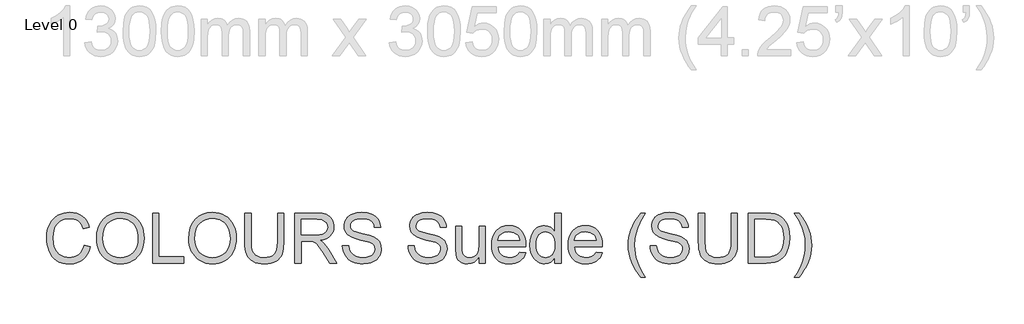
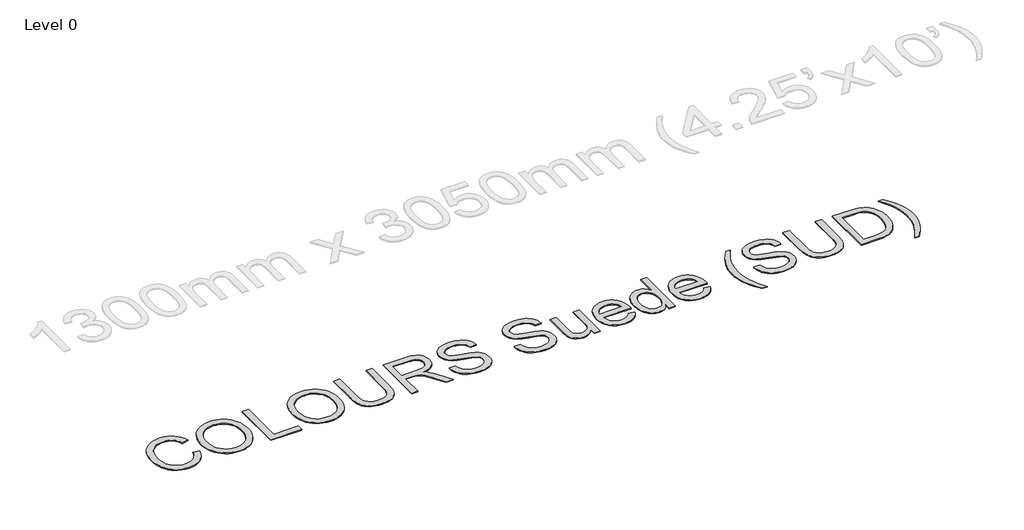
# One storey, part 12 of 37: 1 proxy.
"""IFC4 building model written with IfcOpenShell, lengths in millimetres."""

from ifc_helpers import new_model, si_unit, origin, origin_with_axes, place, context, project, spatial, polyline, outline, extrude, element, save

model = new_model("IFC4")

# Units and contexts
model_context = context("Model", 3, world=origin())
ifc_project = project(units=[si_unit("LENGTHUNIT", "METRE", prefix="MILLI")], contexts=[model_context])

# Site, building, storey
site = spatial("IfcSite", under=ifc_project)
building = spatial("IfcBuilding", under=site)
storey = spatial("IfcBuildingStorey", under=building, Name="Level 0", Elevation=0.0)

# Proxy
placement = place(None, origin())
element("IfcBuildingElementProxy", 1, Name="600mm Arial", ObjectType="600mm Arial", at=placement, inside=storey, context=model_context, shape_type="SweptSolid", body=[
    extrude(outline(polyline([(-10453.6631268, -2025.6175733), (-10378.3208942, -2045.0417427), (-10393.229312, -2091.8961133), (-10413.0857427, -2132.8367808), (-10437.8901863, -2167.8637453), (-10467.6426426, -2196.9770067), (-10501.6717272, -2219.8638653), (-10539.3060553, -2236.2116215), (-10580.5456269, -2246.0202752), (-10625.3904421, -2249.2898264), (-10671.3343048, -2246.81582), (-10712.7808101, -2239.3938007), (-10749.729958, -2227.0237686), (-10782.1817485, -2209.7057237), (-10810.5822385, -2187.6971834), (-10835.377485, -2161.255665), (-10856.5674879, -2130.3811685), (-10874.1522473, -2095.073694), (-10887.9616177, -2056.8599518), (-10897.8254537, -2017.266652), (-10903.7437553, -1976.2937948), (-10905.7165225, -1933.9413801), (-10903.4862379, -1888.4987567), (-10896.7953841, -1846.0543715), (-10885.6439611, -1806.6082246), (-10870.0319689, -1770.1603159), (-10850.3088955, -1737.3130522), (-10826.8242286, -1708.6688404), (-10799.5779683, -1684.2276803), (-10768.5701147, -1663.9895721), (-10734.8537298, -1648.1200625), (-10699.481876, -1636.7846985), (-10662.4545532, -1629.9834801), (-10623.7717614, -1627.7164074), (-10580.6789842, -1630.6502663), (-10541.1638594, -1639.451843), (-10505.2263869, -1654.1211376), (-10472.8665669, -1674.6581499), (-10444.6178282, -1700.5202542), (-10421.0135997, -1731.1648244), (-10402.0538814, -1766.5918605), (-10387.7386733, -1806.8013626), (-10463.0809059, -1824.754004), (-10474.9451002, -1795.1257078), (-10489.2005275, -1769.810828), (-10505.8471878, -1748.8093646), (-10524.8850811, -1732.1213176), (-10546.4245719, -1719.4063961), (-10570.5760249, -1710.3243094), (-10597.33944, -1704.8750573), (-10626.7148173, -1703.05864), (-10660.5139756, -1705.0727939), (-10691.4252603, -1711.1152557), (-10719.4486713, -1721.1860253), (-10744.5842086, -1735.2851027), (-10766.514574, -1752.7778916), (-10784.9224694, -1773.0297954), (-10799.8078946, -1796.0408142), (-10811.1708497, -1821.810948), (-10825.5734298, -1876.9564591), (-10830.3742899, -1933.7942273), (-10824.690513, -2003.3975008), (-10817.585792, -2034.6674704), (-10807.6391826, -2063.5829952), (-10794.6897363, -2089.5692597), (-10778.5765049, -2112.0514481), (-10759.2994884, -2131.0295605), (-10736.8586867, -2146.503597), (-10712.3439502, -2158.5103456), (-10686.8451294, -2167.0865946), (-10660.3622243, -2172.232344), (-10632.8952348, -2173.9475938), (-10600.1399417, -2171.6115431), (-10570.0058078, -2164.6033911), (-10542.4928331, -2152.9231378), (-10517.6010176, -2136.5707831), (-10495.9189725, -2115.6199035), (-10478.035309, -2090.1440753), (-10463.9500271, -2060.1432986), (-10453.6631268, -2025.6175733)])), origin_with_axes(), (0.0, 0.0, 1.0), 10.0),
    extrude(outline(polyline([(-10302.9786616, -1946.449368), (-10297.9570723, -1875.7516456), (-10282.8923046, -1813.1657211), (-10257.7843585, -1758.6915947), (-10241.4641935, -1734.4964557), (-10222.6332338, -1712.3292662), (-10179.5450551, -1675.3111405), (-10130.6259468, -1648.8696221), (-10075.8759089, -1633.004711), (-10015.2949413, -1627.7164074), (-9974.7451484, -1630.1996108), (-9936.2371006, -1637.6492212), (-9899.7707978, -1650.0652386), (-9865.3462401, -1667.4476628), (-9833.9291177, -1689.2722622), (-9806.4851209, -1715.0148048), (-9783.0142496, -1744.6752907), (-9763.5165038, -1778.2537198), (-9748.1942187, -1814.986737), (-9737.2497294, -1854.1109872), (-9730.6830358, -1895.6264703), (-9728.4941379, -1939.5331865), (-9730.7979989, -1984.0193167), (-9737.7095819, -2026.0958199), (-9749.2288869, -2065.7626961), (-9765.3559138, -2103.0199451), (-9785.7089852, -2136.8834828), (-9809.9064234, -2166.3692247), (-9837.9482285, -2191.4771709), (-9869.8344005, -2212.2073213), (-9904.3095419, -2228.4309173), (-9940.1182556, -2240.0192001), (-9977.2605416, -2246.9721698), (-10015.7363997, -2249.2898264), (-10056.9943655, -2246.728448), (-10096.0082511, -2239.0443128), (-10132.7780565, -2226.2374209), (-10167.3037818, -2208.3077721), (-10198.6841159, -2185.9497439), (-10226.0177482, -2159.8577134), (-10249.3046785, -2130.0316806), (-10268.5449068, -2096.4716456), (-10283.6096745, -2060.5249762), (-10294.3702229, -2023.5390401), (-10300.8265519, -1985.5138373), (-10302.9786616, -1946.449368)]), holes=[polyline([(-10227.636429, -1947.185132), (-10223.870237, -1997.1343099), (-10212.5716613, -2041.4732873), (-10193.7407016, -2080.2020644), (-10167.3773582, -2113.320641), (-10135.3302378, -2139.8449328), (-10099.4479477, -2158.7908556), (-10059.7304878, -2170.1584092), (-10016.1778581, -2173.9475938), (-9971.8802674, -2170.121621), (-9931.6937579, -2158.6437028), (-9895.6183298, -2139.513839), (-9863.6539829, -2112.7320298), (-9837.4837775, -2078.9144774), (-9818.7907736, -2038.6773842), (-9807.5749713, -1992.0207501), (-9803.8363705, -1938.9445753), (-9805.4366572, -1904.4648353), (-9810.2375172, -1872.2475695), (-9818.2389506, -1842.2927781), (-9829.4409574, -1814.6004609), (-9843.7193773, -1789.5339015), (-9860.9500503, -1767.4563832), (-9881.1329762, -1748.3679062), (-9904.2681552, -1732.2684704), (-9929.6382173, -1719.4891696), (-9956.5257926, -1710.3610976), (-9984.9308812, -1704.8842544), (-10014.853483, -1703.05864), (-10056.8931979, -1706.5765115), (-10095.8978865, -1717.1301263), (-10131.8675486, -1734.7194842), (-10164.8021842, -1759.3445852), (-10192.2921663, -1792.1918489), (-10211.9278678, -1834.4476945), (-10223.7092887, -1886.1121222), (-10227.636429, -1947.185132)])]), origin_with_axes(), (0.0, 0.0, 1.0), 10.0),
    extrude(outline(polyline([(-9624.8985681, -2239.8720473), (-9624.8985681, -1637.1341864), (-9549.5563355, -1637.1341864), (-9549.5563355, -2164.5298147), (-9248.187405, -2164.5298147), (-9248.187405, -2239.8720473), (-9624.8985681, -2239.8720473)])), origin_with_axes(), (0.0, 0.0, 1.0), 10.0),
    extrude(outline(polyline([(-9191.6807305, -1946.449368), (-9186.6591413, -1875.7516456), (-9171.5943736, -1813.1657211), (-9146.4864274, -1758.6915947), (-9130.1662624, -1734.4964557), (-9111.3353028, -1712.3292662), (-9068.2471241, -1675.3111405), (-9019.3280158, -1648.8696221), (-8964.5779779, -1633.004711), (-8903.9970103, -1627.7164074), (-8863.4472174, -1630.1996108), (-8824.9391696, -1637.6492212), (-8788.4728668, -1650.0652386), (-8754.0483091, -1667.4476628), (-8722.6311867, -1689.2722622), (-8695.1871899, -1715.0148048), (-8671.7163186, -1744.6752907), (-8652.2185728, -1778.2537198), (-8636.8962877, -1814.986737), (-8625.9517984, -1854.1109872), (-8619.3851047, -1895.6264703), (-8617.1962069, -1939.5331865), (-8619.5000679, -1984.0193167), (-8626.4116509, -2026.0958199), (-8637.9309558, -2065.7626961), (-8654.0579828, -2103.0199451), (-8674.4110542, -2136.8834828), (-8698.6084924, -2166.3692247), (-8726.6502975, -2191.4771709), (-8758.5364694, -2212.2073213), (-8793.0116109, -2228.4309173), (-8828.8203246, -2240.0192001), (-8865.9626105, -2246.9721698), (-8904.4384687, -2249.2898264), (-8945.6964345, -2246.728448), (-8984.7103201, -2239.0443128), (-9021.4801255, -2226.2374209), (-9056.0058507, -2208.3077721), (-9087.3861849, -2185.9497439), (-9114.7198172, -2159.8577134), (-9138.0067474, -2130.0316806), (-9157.2469758, -2096.4716456), (-9172.3117435, -2060.5249762), (-9183.0722919, -2023.5390401), (-9189.5286209, -1985.5138373), (-9191.6807305, -1946.449368)]), holes=[polyline([(-9116.3384979, -1947.185132), (-9112.572306, -1997.1343099), (-9101.2737302, -2041.4732873), (-9082.4427706, -2080.2020644), (-9056.0794271, -2113.320641), (-9024.0323068, -2139.8449328), (-8988.1500167, -2158.7908556), (-8948.4325568, -2170.1584092), (-8904.8799271, -2173.9475938), (-8860.5823364, -2170.121621), (-8820.3958269, -2158.6437028), (-8784.3203988, -2139.513839), (-8752.3560519, -2112.7320298), (-8726.1858465, -2078.9144774), (-8707.4928426, -2038.6773842), (-8696.2770403, -1992.0207501), (-8692.5384395, -1938.9445753), (-8694.1387262, -1904.4648353), (-8698.9395862, -1872.2475695), (-8706.9410196, -1842.2927781), (-8718.1430264, -1814.6004609), (-8732.4214463, -1789.5339015), (-8749.6521192, -1767.4563832), (-8769.8350452, -1748.3679062), (-8792.9702242, -1732.2684704), (-8818.3402863, -1719.4891696), (-8845.2278616, -1710.3610976), (-8873.6329501, -1704.8842544), (-8903.5555519, -1703.05864), (-8945.5952669, -1706.5765115), (-8984.5999555, -1717.1301263), (-9020.5696175, -1734.7194842), (-9053.5042532, -1759.3445852), (-9080.9942352, -1792.1918489), (-9100.6299367, -1834.4476945), (-9112.4113576, -1886.1121222), (-9116.3384979, -1947.185132)])]), origin_with_axes(), (0.0, 0.0, 1.0), 10.0),
    extrude(outline(polyline([(-8118.0539158, -1637.1341864), (-8042.7116832, -1637.1341864), (-8042.7116832, -1984.8562483), (-8047.8252429, -2066.2869279), (-8054.2171926, -2099.9803201), (-8063.1659221, -2128.992414), (-8075.4439837, -2154.4222569), (-8091.8239296, -2177.3688963), (-8112.3057596, -2197.8323323), (-8136.889474, -2215.8125648), (-8165.6026637, -2230.4588668), (-8198.47292, -2240.920511), (-8235.5002428, -2247.1974976), (-8276.6846321, -2249.2898264), (-8316.8527475, -2247.4688105), (-8353.185693, -2242.0057629), (-8385.6834688, -2232.9006835), (-8414.3460747, -2220.1535724), (-8439.1781094, -2203.952969), (-8460.1841713, -2184.487413), (-8477.3642605, -2161.7569042), (-8490.7183769, -2135.7614427), (-8500.7293657, -2105.6089147), (-8507.880072, -2070.4072063), (-8512.1704958, -2030.1563175), (-8513.600637, -1984.8562483), (-8513.600637, -1637.1341864), (-8438.2584044, -1637.1341864), (-8438.2584044, -1982.2074979), (-8434.5427963, -2049.9161791), (-8423.3959718, -2097.0602568), (-8414.6311833, -2114.4380825), (-8403.1992503, -2129.7097839), (-8389.1001728, -2142.8753608), (-8372.3339509, -2153.9348133), (-8332.0876606, -2168.9443987), (-8283.7479664, -2173.9475938), (-8242.2232862, -2171.4735874), (-8207.1181469, -2164.0515681), (-8178.4325483, -2151.681536), (-8156.1664905, -2134.3634911), (-8139.4922391, -2110.009703), (-8127.5820595, -2076.5324415), (-8120.4359517, -2033.9317064), (-8118.0539158, -1982.2074979), (-8118.0539158, -1637.1341864)])), origin_with_axes(), (0.0, 0.0, 1.0), 10.0),
    extrude(outline(polyline([(-7910.8627761, -2239.8720473), (-7910.8627761, -1637.1341864), (-7651.1380875, -1637.1341864), (-7581.332479, -1641.1992825), (-7530.5463695, -1653.3945706), (-7510.9474562, -1663.0882612), (-7493.4270762, -1675.9089487), (-7477.9852295, -1691.8566332), (-7464.621916, -1710.9313147), (-7453.838375, -1732.107522), (-7446.1358457, -1754.3597842), (-7441.5143282, -1777.6881012), (-7439.9738223, -1802.0924731), (-7442.5260037, -1833.049743), (-7450.1825477, -1861.4686271), (-7462.9434544, -1887.3491255), (-7480.8087238, -1910.691238), (-7504.0082821, -1930.7500038), (-7532.7720556, -1946.7804618), (-7567.1000443, -1958.7826119), (-7606.9922481, -1966.7564541), (-7582.1602134, -1982.9800501), (-7564.1707839, -1998.9829169), (-7533.3054845, -2035.5871754), (-7503.1023727, -2076.5324415), (-7402.5970116, -2239.8720473), (-7490.1529265, -2239.8720473), (-7568.5853678, -2114.9393218), (-7625.2391951, -2032.2394493), (-7646.3004393, -2008.1247845), (-7665.044027, -1993.1703814), (-7700.8757333, -1978.8229836), (-7744.5801143, -1976.1742332), (-7835.5205435, -1976.1742332), (-7835.5205435, -2239.8720473), (-7910.8627761, -2239.8720473)]), holes=[polyline([(-7835.5205435, -1900.8320006), (-7666.8834369, -1900.8320006), (-7618.4517723, -1898.1648561), (-7580.8726265, -1890.1634227), (-7552.582501, -1876.2942715), (-7532.0178975, -1856.0239736), (-7519.4915156, -1831.5046386), (-7515.3160549, -1804.8883762), (-7517.3072162, -1785.6205567), (-7523.2807001, -1768.1369649), (-7533.2365066, -1752.4376008), (-7547.1746357, -1738.5224643), (-7565.4169841, -1727.1273195), (-7588.2854487, -1718.9879304), (-7615.7800293, -1714.1042969), (-7647.900726, -1712.476419), (-7835.5205435, -1712.476419), (-7835.5205435, -1900.8320006)])]), origin_with_axes(), (0.0, 0.0, 1.0), 10.0),
    extrude(outline(polyline([(-7336.3782525, -2032.6809076), (-7261.0360199, -2032.6809076), (-7252.390793, -2074.4906964), (-7236.7558082, -2108.0967167), (-7212.3652319, -2134.7681613), (-7177.4532306, -2155.7742232), (-7134.7789191, -2169.4042512), (-7087.1014125, -2173.9475938), (-7045.1260769, -2170.5078971), (-7008.3746656, -2160.1888072), (-6978.5946181, -2143.8548466), (-6957.5333738, -2122.3705381), (-6945.0069919, -2097.7040503), (-6940.8315313, -2071.8235519), (-6943.9585282, -2046.6052412), (-6953.3395191, -2024.8082329), (-6972.3958064, -2006.2117981), (-7004.5486928, -1990.5952074), (-7114.2511038, -1961.8268354), (-7186.2640043, -1942.7889421), (-7232.3412242, -1924.6707539), (-7269.8467936, -1899.3236844), (-7296.4262678, -1868.6055378), (-7312.2635877, -1833.1785017), (-7317.5426943, -1793.7047636), (-7315.910218, -1771.2685604), (-7311.0127889, -1749.5773183), (-7302.8504071, -1728.6310372), (-7291.4230727, -1708.4297171), (-7276.8595442, -1689.796494), (-7259.2885804, -1673.554504), (-7238.7101813, -1659.7037468), (-7215.1243469, -1648.2442227), (-7162.1125514, -1632.8483612), (-7103.4353731, -1627.7164074), (-7039.8653644, -1633.0874845), (-6984.2416067, -1649.2007159), (-6959.9062127, -1661.202866), (-6938.5506629, -1675.7250077), (-6920.1749572, -1692.7671412), (-6904.7790957, -1712.3292662), (-6892.48264, -1733.8411659), (-6883.4051518, -1756.7326231), (-6877.546631, -1781.0036377), (-6874.9070777, -1806.6542098), (-6950.2493103, -1806.6542098), (-6955.2892937, -1782.6131214), (-6964.0816733, -1761.69903), (-6976.6264494, -1743.9119355), (-6992.9236218, -1729.251838), (-7013.2766932, -1717.7923139), (-7037.9891662, -1709.6069395), (-7067.0610408, -1704.6957148), (-7100.4923172, -1703.05864), (-7134.9904513, -1704.6773207), (-7164.4669961, -1709.5333631), (-7188.9219518, -1717.626767), (-7208.3553181, -1728.9575324), (-7223.1625685, -1742.5783633), (-7233.7391758, -1757.5419635), (-7240.0851402, -1773.8483329), (-7242.2004617, -1791.4974716), (-7240.7013426, -1806.681801), (-7236.2039852, -1820.4497846), (-7228.7083895, -1832.8014226), (-7218.2145556, -1843.7367149), (-7201.696654, -1854.0925931), (-7175.687397, -1864.5588358), (-7095.1948164, -1885.8224152), (-7012.1270619, -1906.0191367), (-6961.8743814, -1923.6406843), (-6918.9241584, -1950.9743165), (-6902.3188849, -1967.0415627), (-6888.9601699, -1984.7090955), (-6878.6916637, -2003.8849445), (-6871.3570165, -2024.4771392), (-6865.4892986, -2069.9105656), (-6867.1769573, -2093.4780059), (-6872.2399333, -2116.3556674), (-6880.6782265, -2138.5435503), (-6892.4918371, -2160.0416544), (-6907.4738313, -2180.0176467), (-6925.4172757, -2197.6391943), (-6946.32217, -2212.9062971), (-6970.1885145, -2225.8189551), (-6996.3219317, -2236.0874613), (-7024.0280445, -2243.4221086), (-7084.1583566, -2249.2898264), (-7122.6985941, -2247.7079338), (-7157.9738789, -2242.9622561), (-7189.984211, -2235.0527932), (-7218.7295904, -2223.9795451), (-7244.384761, -2209.7241178), (-7267.1244669, -2192.2681172), (-7286.9487079, -2171.6115431), (-7303.8574841, -2147.7543957), (-7317.478315, -2121.4692272), (-7327.43872, -2093.5285896), (-7333.7386992, -2063.9324831), (-7336.3782525, -2032.6809076)])), origin_with_axes(), (0.0, 0.0, 1.0), 10.0),
    extrude(outline(polyline([(-6545.28481, -2032.6809076), (-6469.9425774, -2032.6809076), (-6461.2973505, -2074.4906964), (-6445.6623657, -2108.0967167), (-6421.2717895, -2134.7681613), (-6386.3597881, -2155.7742232), (-6343.6854767, -2169.4042512), (-6296.0079701, -2173.9475938), (-6254.0326345, -2170.5078971), (-6217.2812231, -2160.1888072), (-6187.5011756, -2143.8548466), (-6166.4399314, -2122.3705381), (-6153.9135495, -2097.7040503), (-6149.7380888, -2071.8235519), (-6152.8650858, -2046.6052412), (-6162.2460767, -2024.8082329), (-6181.302364, -2006.2117981), (-6213.4552504, -1990.5952074), (-6323.1576614, -1961.8268354), (-6395.1705619, -1942.7889421), (-6441.2477818, -1924.6707539), (-6478.7533512, -1899.3236844), (-6505.3328254, -1868.6055378), (-6521.1701453, -1833.1785017), (-6526.4492519, -1793.7047636), (-6524.8167755, -1771.2685604), (-6519.9193465, -1749.5773183), (-6511.7569647, -1728.6310372), (-6500.3296302, -1708.4297171), (-6485.7661017, -1689.796494), (-6468.1951379, -1673.554504), (-6447.6167388, -1659.7037468), (-6424.0309044, -1648.2442227), (-6371.0191089, -1632.8483612), (-6312.3419307, -1627.7164074), (-6248.7719219, -1633.0874845), (-6193.1481643, -1649.2007159), (-6168.8127703, -1661.202866), (-6147.4572205, -1675.7250077), (-6129.0815148, -1692.7671412), (-6113.6856533, -1712.3292662), (-6101.3891976, -1733.8411659), (-6092.3117094, -1756.7326231), (-6086.4531886, -1781.0036377), (-6083.8136353, -1806.6542098), (-6159.1558679, -1806.6542098), (-6164.1958512, -1782.6131214), (-6172.9882309, -1761.69903), (-6185.533007, -1743.9119355), (-6201.8301793, -1729.251838), (-6222.1832507, -1717.7923139), (-6246.8957238, -1709.6069395), (-6275.9675984, -1704.6957148), (-6309.3988747, -1703.05864), (-6343.8970088, -1704.6773207), (-6373.3735537, -1709.5333631), (-6397.8285093, -1717.626767), (-6417.2618757, -1728.9575324), (-6432.069126, -1742.5783633), (-6442.6457334, -1757.5419635), (-6448.9916978, -1773.8483329), (-6451.1070193, -1791.4974716), (-6449.6079001, -1806.681801), (-6445.1105428, -1820.4497846), (-6437.6149471, -1832.8014226), (-6427.1211132, -1843.7367149), (-6410.6032116, -1854.0925931), (-6384.5939545, -1864.5588358), (-6304.101374, -1885.8224152), (-6221.0336195, -1906.0191367), (-6170.7809389, -1923.6406843), (-6127.830716, -1950.9743165), (-6111.2254425, -1967.0415627), (-6097.8667275, -1984.7090955), (-6087.5982213, -2003.8849445), (-6080.263574, -2024.4771392), (-6074.3958562, -2069.9105656), (-6076.0835149, -2093.4780059), (-6081.1464908, -2116.3556674), (-6089.5847841, -2138.5435503), (-6101.3983947, -2160.0416544), (-6116.3803889, -2180.0176467), (-6134.3238332, -2197.6391943), (-6155.2287276, -2212.9062971), (-6179.095072, -2225.8189551), (-6205.2284893, -2236.0874613), (-6232.934602, -2243.4221086), (-6293.0649141, -2249.2898264), (-6331.6051517, -2247.7079338), (-6366.8804365, -2242.9622561), (-6398.8907686, -2235.0527932), (-6427.636148, -2223.9795451), (-6453.2913186, -2209.7241178), (-6476.0310244, -2192.2681172), (-6495.8552655, -2171.6115431), (-6512.7640417, -2147.7543957), (-6526.3848725, -2121.4692272), (-6536.3452776, -2093.5285896), (-6542.6452567, -2063.9324831), (-6545.28481, -2032.6809076)])), origin_with_axes(), (0.0, 0.0, 1.0), 10.0),
    extrude(outline(polyline([(-5688.2669141, -2239.8720473), (-5688.2669141, -2163.7940507), (-5715.5269699, -2201.1984526), (-5747.2751861, -2227.9158825), (-5783.5115626, -2243.9463404), (-5824.2360995, -2249.2898264), (-5860.9323285, -2245.5374301), (-5895.0901718, -2234.280241), (-5923.7481792, -2217.3576692), (-5943.9449007, -2196.6091247), (-5957.5381404, -2171.409208), (-5966.3857024, -2141.1325198), (-5970.8002864, -2071.0877879), (-5970.8002864, -1797.2364307), (-5895.4580538, -1797.2364307), (-5895.4580538, -2035.6239636), (-5894.3176196, -2083.3014702), (-5890.896317, -2112.4377242), (-5879.9150395, -2138.0607052), (-5861.0978754, -2157.5400568), (-5835.6956236, -2169.8457095), (-5804.9590829, -2173.9475938), (-5772.4567087, -2169.753739), (-5742.0512618, -2157.1721748), (-5716.9801038, -2137.3617294), (-5700.4805963, -2111.481231), (-5691.3203346, -2076.0358008), (-5688.2669141, -2027.5305597), (-5688.2669141, -1797.2364307), (-5612.9246815, -1797.2364307), (-5612.9246815, -2239.8720473), (-5688.2669141, -2239.8720473)])), origin_with_axes(), (0.0, 0.0, 1.0), 10.0),
    extrude(outline(polyline([(-5199.4253189, -2108.0231403), (-5125.5546143, -2117.4409193), (-5136.8807812, -2147.0278288), (-5152.1708766, -2173.1014652), (-5171.4249005, -2195.6618286), (-5194.6428529, -2214.7089189), (-5221.5856106, -2229.8380659), (-5252.0140501, -2240.6445995), (-5285.9281715, -2247.1285197), (-5323.3279749, -2249.2898264), (-5370.0765794, -2245.5604227), (-5411.7300183, -2234.3722115), (-5448.2882916, -2215.7251929), (-5479.7513992, -2189.6193668), (-5505.0524834, -2156.7813002), (-5523.1246864, -2117.93756), (-5533.9680082, -2073.0881463), (-5537.5824489, -2022.233059), (-5533.93122, -1969.6535248), (-5522.9775336, -1923.3095905), (-5504.7213896, -1883.201256), (-5479.162788, -1849.3285212), (-5447.7824538, -1822.4179533), (-5412.0611121, -1803.1961191), (-5371.9987628, -1791.6630185), (-5327.595406, -1787.8186517), (-5284.6221904, -1791.6538215), (-5245.7600562, -1803.1593309), (-5211.0090032, -1822.3351799), (-5180.3690315, -1849.1813685), (-5155.3576544, -1882.9805268), (-5137.492385, -1923.0152849), (-5126.7732234, -1969.2856428), (-5123.2001695, -2021.7916006), (-5123.6416279, -2042.0986867), (-5462.2402162, -2042.0986867), (-5457.8762161, -2072.1638428), (-5449.1987995, -2098.4949966), (-5436.2079666, -2121.0921481), (-5418.9037172, -2139.9552974), (-5398.2425447, -2154.8269271), (-5375.1809421, -2165.4495197), (-5349.7189095, -2171.8230753), (-5321.8564469, -2173.9475938), (-5281.7573094, -2170.0112564), (-5247.9857422, -2158.2022444), (-5220.5417454, -2137.7847937), (-5199.4253189, -2108.0231403)]), holes=[polyline([(-5462.2402162, -1966.7564541), (-5198.5424021, -1966.7564541), (-5208.7327334, -1926.9516222), (-5217.4975219, -1911.2982433), (-5228.7087257, -1898.4775558), (-5249.2549351, -1883.026512), (-5272.6338359, -1871.9900522), (-5298.8454281, -1865.3681762), (-5327.8897116, -1863.1608843), (-5354.3818138, -1864.9221193), (-5378.675821, -1870.2058245), (-5400.7717334, -1879.0119997), (-5420.6695508, -1891.3406451), (-5437.3667948, -1906.6215435), (-5449.8609871, -1924.2844778), (-5458.1521276, -1944.329448), (-5462.2402162, -1966.7564541)])]), origin_with_axes(), (0.0, 0.0, 1.0), 10.0),
    extrude(outline(polyline([(-4774.7423437, -2239.8720473), (-4774.7423437, -2168.7972459), (-4797.2843129, -2204.0127498), (-4824.590354, -2229.1666813), (-4856.6604669, -2244.2590401), (-4893.4946517, -2249.2898264), (-4918.3634746, -2247.4688105), (-4942.2022279, -2242.0057629), (-4965.0109116, -2232.9006835), (-4986.7895257, -2220.1535724), (-5006.8574885, -2204.1461071), (-5024.5342184, -2185.2599651), (-5039.8197153, -2163.4951466), (-5052.7139792, -2138.8516515), (-5062.9502957, -2111.7985292), (-5070.2619504, -2082.8048295), (-5076.1112741, -2018.9956974), (-5070.7218029, -1955.9775117), (-5054.5533892, -1899.066167), (-5042.4316774, -1873.7099005), (-5027.6244271, -1851.499025), (-5010.1316383, -1832.4335406), (-4989.9533108, -1816.5134473), (-4967.8022162, -1803.9594742), (-4944.3911257, -1794.9923506), (-4919.7200394, -1789.6120764), (-4893.7889573, -1787.8186517), (-4856.9271814, -1792.9506055), (-4824.3328366, -1808.346467), (-4796.7048988, -1831.946097), (-4774.7423437, -1861.6893563), (-4774.7423437, -1637.1341864), (-4699.400111, -1637.1341864), (-4699.400111, -2239.8720473), (-4774.7423437, -2239.8720473)]), holes=[polyline([(-5000.7690415, -2018.7013918), (-4998.644523, -2055.2366725), (-4992.2709674, -2086.8515314), (-4981.6483748, -2113.5459687), (-4966.7767451, -2135.3199843), (-4949.0172418, -2152.2195635), (-4929.7310282, -2164.2906914), (-4908.9181043, -2171.5333682), (-4886.5784702, -2173.9475938), (-4864.13307, -2171.6437328), (-4843.4443063, -2164.7321498), (-4824.5121791, -2153.2128448), (-4807.3366884, -2137.0858179), (-4793.0766626, -2116.2223102), (-4782.8909298, -2090.4935632), (-4776.7794902, -2059.8995768), (-4774.7423437, -2024.440351), (-4776.8162784, -1985.5644211), (-4783.0380826, -1952.2251153), (-4793.4077564, -1924.4224335), (-4807.9252996, -1902.1563758), (-4825.4778693, -1885.0958482), (-4844.9526224, -1872.9097571), (-4866.349559, -1865.5981025), (-4889.6686789, -1863.1608843), (-4912.4497715, -1865.5015335), (-4933.2626954, -1872.523481), (-4952.1074506, -1884.226727), (-4968.9840371, -1900.6112714), (-4982.8899765, -1922.0357991), (-4992.8227904, -1948.858995), (-4998.7824787, -1981.0808593), (-5000.7690415, -2018.7013918)])]), origin_with_axes(), (0.0, 0.0, 1.0), 10.0),
    extrude(outline(polyline([(-4276.4829694, -2108.0231403), (-4202.6122648, -2117.4409193), (-4213.9384317, -2147.0278288), (-4229.2285271, -2173.1014652), (-4248.482551, -2195.6618286), (-4271.7005034, -2214.7089189), (-4298.6432611, -2229.8380659), (-4329.0717006, -2240.6445995), (-4362.985822, -2247.1285197), (-4400.3856254, -2249.2898264), (-4447.1342299, -2245.5604227), (-4488.7876688, -2234.3722115), (-4525.3459421, -2215.7251929), (-4556.8090497, -2189.6193668), (-4582.1101339, -2156.7813002), (-4600.1823369, -2117.93756), (-4611.0256587, -2073.0881463), (-4614.6400994, -2022.233059), (-4610.9888705, -1969.6535248), (-4600.0351841, -1923.3095905), (-4581.7790401, -1883.201256), (-4556.2204385, -1849.3285212), (-4524.8401043, -1822.4179533), (-4489.1187626, -1803.1961191), (-4449.0564133, -1791.6630185), (-4404.6530565, -1787.8186517), (-4361.6798409, -1791.6538215), (-4322.8177067, -1803.1593309), (-4288.0666537, -1822.3351799), (-4257.426682, -1849.1813685), (-4232.4153049, -1882.9805268), (-4214.5500355, -1923.0152849), (-4203.8308739, -1969.2856428), (-4200.25782, -2021.7916006), (-4200.6992784, -2042.0986867), (-4539.2978667, -2042.0986867), (-4534.9338666, -2072.1638428), (-4526.25645, -2098.4949966), (-4513.2656171, -2121.0921481), (-4495.9613677, -2139.9552974), (-4475.3001952, -2154.8269271), (-4452.2385926, -2165.4495197), (-4426.77656, -2171.8230753), (-4398.9140974, -2173.9475938), (-4358.8149599, -2170.0112564), (-4325.0433927, -2158.2022444), (-4297.5993959, -2137.7847937), (-4276.4829694, -2108.0231403)]), holes=[polyline([(-4539.2978667, -1966.7564541), (-4275.6000526, -1966.7564541), (-4285.7903839, -1926.9516222), (-4294.5551724, -1911.2982433), (-4305.7663762, -1898.4775558), (-4326.3125856, -1883.026512), (-4349.6914864, -1871.9900522), (-4375.9030786, -1865.3681762), (-4404.9473621, -1863.1608843), (-4431.4394643, -1864.9221193), (-4455.7334715, -1870.2058245), (-4477.8293839, -1879.0119997), (-4497.7272013, -1891.3406451), (-4514.4244453, -1906.6215435), (-4526.9186376, -1924.2844778), (-4535.2097781, -1944.329448), (-4539.2978667, -1966.7564541)])]), origin_with_axes(), (0.0, 0.0, 1.0), 10.0),
    extrude(outline(polyline([(-3738.7866452, -2409.3920707), (-3769.2012892, -2370.0378943), (-3797.1695179, -2327.4647504), (-3822.6913313, -2281.672639), (-3845.7667294, -2232.6615602), (-3864.8873961, -2181.5811452), (-3878.5450152, -2129.5810252), (-3886.7395866, -2076.6612002), (-3889.4711105, -2022.8216702), (-3887.4293654, -1975.5028485), (-3881.3041302, -1929.1957024), (-3871.0954048, -1883.9002317), (-3856.8031893, -1839.6164366), (-3835.0797575, -1788.8303271), (-3808.1691895, -1738.1545823), (-3776.0714854, -1687.5892021), (-3738.7866452, -1637.1341864), (-3682.2799708, -1637.1341864), (-3726.6097512, -1708.7608109), (-3752.7661611, -1756.4751057), (-3776.8256435, -1813.1289329), (-3795.1461669, -1872.137205), (-3809.3832001, -1947.5162258), (-3814.1288778, -2023.2631286), (-3812.0687387, -2071.561436), (-3805.8883212, -2119.8505464), (-3795.5876253, -2168.1304597), (-3781.1666511, -2216.401176), (-3762.6253985, -2264.6626953), (-3739.9638676, -2312.9150175), (-3713.1820584, -2361.1581426), (-3682.2799708, -2409.3920707), (-3738.7866452, -2409.3920707)])), origin_with_axes(), (0.0, 0.0, 1.0), 10.0),
    extrude(outline(polyline([(-3625.7732963, -2032.6809076), (-3550.4310637, -2032.6809076), (-3541.7858368, -2074.4906964), (-3526.150852, -2108.0967167), (-3501.7602757, -2134.7681613), (-3466.8482744, -2155.7742232), (-3424.173963, -2169.4042512), (-3376.4964564, -2173.9475938), (-3334.5211207, -2170.5078971), (-3297.7697094, -2160.1888072), (-3267.9896619, -2143.8548466), (-3246.9284177, -2122.3705381), (-3234.4020357, -2097.7040503), (-3230.2265751, -2071.8235519), (-3233.3535721, -2046.6052412), (-3242.7345629, -2024.8082329), (-3261.7908503, -2006.2117981), (-3293.9437367, -1990.5952074), (-3403.6461476, -1961.8268354), (-3475.6590482, -1942.7889421), (-3521.7362681, -1924.6707539), (-3559.2418375, -1899.3236844), (-3585.8213116, -1868.6055378), (-3601.6586315, -1833.1785017), (-3606.9377382, -1793.7047636), (-3605.3052618, -1771.2685604), (-3600.4078327, -1749.5773183), (-3592.245451, -1728.6310372), (-3580.8181165, -1708.4297171), (-3566.254588, -1689.796494), (-3548.6836242, -1673.554504), (-3528.1052251, -1659.7037468), (-3504.5193907, -1648.2442227), (-3451.5075952, -1632.8483612), (-3392.830417, -1627.7164074), (-3329.2604082, -1633.0874845), (-3273.6366505, -1649.2007159), (-3249.3012566, -1661.202866), (-3227.9457067, -1675.7250077), (-3209.5700011, -1692.7671412), (-3194.1741396, -1712.3292662), (-3181.8776839, -1733.8411659), (-3172.8001957, -1756.7326231), (-3166.9416749, -1781.0036377), (-3164.3021216, -1806.6542098), (-3239.6443542, -1806.6542098), (-3244.6843375, -1782.6131214), (-3253.4767172, -1761.69903), (-3266.0214932, -1743.9119355), (-3282.3186656, -1729.251838), (-3302.671737, -1717.7923139), (-3327.38421, -1709.6069395), (-3356.4560847, -1704.6957148), (-3389.887361, -1703.05864), (-3424.3854951, -1704.6773207), (-3453.86204, -1709.5333631), (-3478.3169956, -1717.626767), (-3497.750362, -1728.9575324), (-3512.5576123, -1742.5783633), (-3523.1342197, -1757.5419635), (-3529.4801841, -1773.8483329), (-3531.5955056, -1791.4974716), (-3530.0963864, -1806.681801), (-3525.599029, -1820.4497846), (-3518.1034334, -1832.8014226), (-3507.6095995, -1843.7367149), (-3491.0916979, -1854.0925931), (-3465.0824408, -1864.5588358), (-3384.5898603, -1885.8224152), (-3301.5221058, -1906.0191367), (-3251.2694252, -1923.6406843), (-3208.3192023, -1950.9743165), (-3191.7139287, -1967.0415627), (-3178.3552138, -1984.7090955), (-3168.0867076, -2003.8849445), (-3160.7520603, -2024.4771392), (-3154.8843425, -2069.9105656), (-3156.5720011, -2093.4780059), (-3161.6349771, -2116.3556674), (-3170.0732704, -2138.5435503), (-3181.8868809, -2160.0416544), (-3196.8688752, -2180.0176467), (-3214.8123195, -2197.6391943), (-3235.7172139, -2212.9062971), (-3259.5835583, -2225.8189551), (-3285.7169755, -2236.0874613), (-3313.4230883, -2243.4221086), (-3373.5534004, -2249.2898264), (-3412.0936379, -2247.7079338), (-3447.3689228, -2242.9622561), (-3479.3792549, -2235.0527932), (-3508.1246343, -2223.9795451), (-3533.7798049, -2209.7241178), (-3556.5195107, -2192.2681172), (-3576.3437517, -2171.6115431), (-3593.2525279, -2147.7543957), (-3606.8733588, -2121.4692272), (-3616.8337638, -2093.5285896), (-3623.133743, -2063.9324831), (-3625.7732963, -2032.6809076)])), origin_with_axes(), (0.0, 0.0, 1.0), 10.0),
    extrude(outline(polyline([(-2646.3242724, -1637.1341864), (-2570.9820397, -1637.1341864), (-2570.9820397, -1984.8562483), (-2576.0955995, -2066.2869279), (-2582.4875491, -2099.9803201), (-2591.4362787, -2128.992414), (-2603.7143403, -2154.4222569), (-2620.0942861, -2177.3688963), (-2640.5761162, -2197.8323323), (-2665.1598305, -2215.8125648), (-2693.8730202, -2230.4588668), (-2726.7432765, -2240.920511), (-2763.7705993, -2247.1974976), (-2804.9549887, -2249.2898264), (-2845.123104, -2247.4688105), (-2881.4560496, -2242.0057629), (-2913.9538253, -2232.9006835), (-2942.6164313, -2220.1535724), (-2967.4484659, -2203.952969), (-2988.4545279, -2184.487413), (-3005.634617, -2161.7569042), (-3018.9887335, -2135.7614427), (-3028.9997223, -2105.6089147), (-3036.1504285, -2070.4072063), (-3040.4408523, -2030.1563175), (-3041.8709936, -1984.8562483), (-3041.8709936, -1637.1341864), (-2966.528761, -1637.1341864), (-2966.528761, -1982.2074979), (-2962.8131528, -2049.9161791), (-2951.6663284, -2097.0602568), (-2942.9015398, -2114.4380825), (-2931.4696068, -2129.7097839), (-2917.3705294, -2142.8753608), (-2900.6043074, -2153.9348133), (-2860.3580172, -2168.9443987), (-2812.018323, -2173.9475938), (-2770.4936428, -2171.4735874), (-2735.3885034, -2164.0515681), (-2706.7029048, -2151.681536), (-2684.4368471, -2134.3634911), (-2667.7625956, -2110.009703), (-2655.852416, -2076.5324415), (-2648.7063083, -2033.9317064), (-2646.3242724, -1982.2074979), (-2646.3242724, -1637.1341864)])), origin_with_axes(), (0.0, 0.0, 1.0), 10.0),
    extrude(outline(polyline([(-2439.1331327, -2239.8720473), (-2439.1331327, -1637.1341864), (-2231.206229, -1637.1341864), (-2169.07096, -1639.3046902), (-2123.6375336, -1645.8162015), (-2075.592145, -1662.5548323), (-2035.0515492, -1688.9319714), (-2012.711915, -1710.4898563), (-1993.3705191, -1734.8436444), (-1977.0273615, -1761.9933356), (-1963.6824421, -1791.93893), (-1953.3173669, -1824.4045161), (-1945.9137417, -1859.1141823), (-1939.9908416, -1935.2657553), (-1944.0007554, -1999.9578042), (-1956.0304966, -2056.8875429), (-1974.35102, -2105.3559958), (-1997.2332801, -2144.664187), (-2023.5736309, -2175.6950333), (-2052.2684265, -2199.3314515), (-2085.2122592, -2216.8610285), (-2124.2997212, -2229.5713515), (-2169.6043889, -2237.2968734), (-2221.1998387, -2239.8720473), (-2439.1331327, -2239.8720473)]), holes=[polyline([(-2363.7909001, -2164.5298147), (-2230.470465, -2164.5298147), (-2175.3249539, -2161.807488), (-2133.4967711, -2153.6405077), (-2101.9324959, -2140.5071204), (-2077.5787078, -2122.8855729), (-2051.4039039, -2090.272834), (-2031.7406112, -2048.058375), (-2019.4349585, -1996.058255), (-2015.3330742, -1934.0885329), (-2017.3426296, -1890.3473637), (-2023.3712958, -1851.9772716), (-2033.4190728, -1818.9782566), (-2047.4859606, -1791.3503188), (-2064.431525, -1768.4680587), (-2083.1153318, -1749.706077), (-2103.5373811, -1735.0643735), (-2125.6976728, -1724.5429485), (-2169.0341718, -1715.4930514), (-2232.5306042, -1712.476419), (-2363.7909001, -1712.476419), (-2363.7909001, -2164.5298147)])]), origin_with_axes(), (0.0, 0.0, 1.0), 10.0),
    extrude(outline(polyline([(-1826.9774927, -2409.3920707), (-1883.4841672, -2409.3920707), (-1852.5820796, -2361.1581426), (-1825.8002703, -2312.9150175), (-1803.1387394, -2264.6626953), (-1784.5974869, -2216.401176), (-1770.1765126, -2168.1304597), (-1759.8758168, -2119.8505464), (-1753.6953993, -2071.561436), (-1751.6352601, -2023.2631286), (-1756.3809378, -1948.0680488), (-1770.617971, -1873.4615801), (-1788.6074006, -1814.3429435), (-1812.5565185, -1757.6523281), (-1838.8232929, -1709.4229985), (-1883.4841672, -1637.1341864), (-1826.9774927, -1637.1341864), (-1789.6926525, -1687.5892021), (-1757.5949484, -1738.1545823), (-1730.6843805, -1788.8303271), (-1708.9609486, -1839.6164366), (-1694.6687331, -1883.9002317), (-1684.4600078, -1929.1957024), (-1678.3347725, -1975.5028485), (-1676.2930275, -2022.8216702), (-1679.0383469, -2076.6612002), (-1687.274305, -2129.5810252), (-1701.000902, -2181.5811452), (-1720.2181377, -2232.6615602), (-1743.3625137, -2281.672639), (-1768.8705316, -2327.4647504), (-1796.7421912, -2370.0378943), (-1826.9774927, -2409.3920707)])), origin_with_axes(), (0.0, 0.0, 1.0), 10.0),
])

save(model, "model.ifc")
